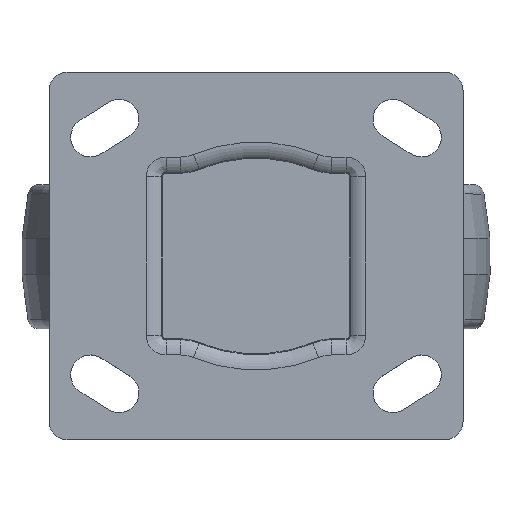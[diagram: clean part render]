
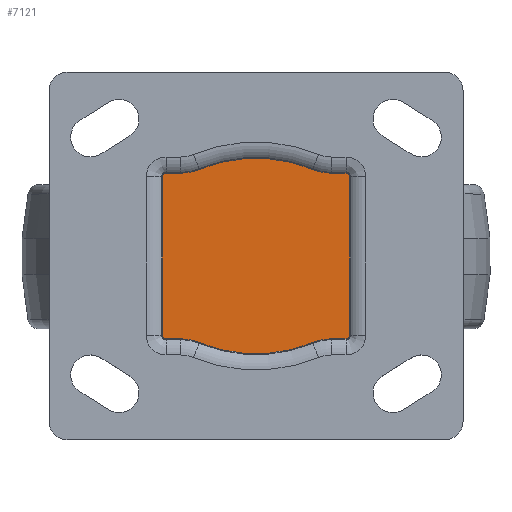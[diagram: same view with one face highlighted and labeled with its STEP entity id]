
A CAD part, top view. The second image highlights one B-rep face of the part: STEP entity #7121.
In plain terms, the highlighted planar face has unit normal (0, 0, 1).
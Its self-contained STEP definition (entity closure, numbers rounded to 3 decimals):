
#6472=CARTESIAN_POINT('',(25.,23.,0.5));
#6473=VERTEX_POINT('',#6472);
#6480=CARTESIAN_POINT('',(26.,22.,0.5));
#6481=VERTEX_POINT('',#6480);
#6482=CARTESIAN_POINT('',(25.,22.,0.5));
#6483=DIRECTION('',(0.0,0.0,1.0));
#6484=DIRECTION('',(1.0,0.0,0.0));
#6485=AXIS2_PLACEMENT_3D('',#6482,#6483,#6484);
#6486=CIRCLE('',#6485,1.0);
#6487=EDGE_CURVE('',#6481,#6473,#6486,.T.);
#6504=CARTESIAN_POINT('',(21.018,23.,0.5));
#6505=VERTEX_POINT('',#6504);
#6512=CARTESIAN_POINT('',(25.,23.,0.5));
#6513=DIRECTION('',(-1.0,0.,0.0));
#6514=VECTOR('',#6513,3.982);
#6515=LINE('',#6512,#6514);
#6516=EDGE_CURVE('',#6473,#6505,#6515,.T.);
#6528=CARTESIAN_POINT('',(15.668,24.063,0.5));
#6529=VERTEX_POINT('',#6528);
#6536=CARTESIAN_POINT('',(21.018,37.,0.5));
#6537=DIRECTION('',(0.0,0.0,-1.0));
#6538=DIRECTION('',(1.0,0.0,0.0));
#6539=AXIS2_PLACEMENT_3D('',#6536,#6537,#6538);
#6540=CIRCLE('',#6539,14.);
#6541=EDGE_CURVE('',#6505,#6529,#6540,.T.);
#6553=CARTESIAN_POINT('',(-15.668,24.063,0.5));
#6554=VERTEX_POINT('',#6553);
#6561=CARTESIAN_POINT('',(0.,-13.826,0.5));
#6562=DIRECTION('',(0.0,0.0,1.0));
#6563=DIRECTION('',(1.0,0.0,0.0));
#6564=AXIS2_PLACEMENT_3D('',#6561,#6562,#6563);
#6565=CIRCLE('',#6564,41.);
#6566=EDGE_CURVE('',#6529,#6554,#6565,.T.);
#6578=CARTESIAN_POINT('',(-21.018,23.,0.5));
#6579=VERTEX_POINT('',#6578);
#6586=CARTESIAN_POINT('',(-21.018,37.,0.5));
#6587=DIRECTION('',(0.0,0.0,-1.0));
#6588=DIRECTION('',(1.0,0.0,0.0));
#6589=AXIS2_PLACEMENT_3D('',#6586,#6587,#6588);
#6590=CIRCLE('',#6589,14.);
#6591=EDGE_CURVE('',#6554,#6579,#6590,.T.);
#6603=CARTESIAN_POINT('',(-25.,23.,0.5));
#6604=VERTEX_POINT('',#6603);
#6611=CARTESIAN_POINT('',(-21.018,23.,0.5));
#6612=DIRECTION('',(-1.0,0.,0.0));
#6613=VECTOR('',#6612,3.982);
#6614=LINE('',#6611,#6613);
#6615=EDGE_CURVE('',#6579,#6604,#6614,.T.);
#6627=CARTESIAN_POINT('',(-26.,22.,0.5));
#6628=VERTEX_POINT('',#6627);
#6635=CARTESIAN_POINT('',(-25.,22.,0.5));
#6636=DIRECTION('',(0.0,0.0,1.0));
#6637=DIRECTION('',(1.0,0.0,0.0));
#6638=AXIS2_PLACEMENT_3D('',#6635,#6636,#6637);
#6639=CIRCLE('',#6638,1.0);
#6640=EDGE_CURVE('',#6604,#6628,#6639,.T.);
#6652=CARTESIAN_POINT('',(-26.,-22.,0.5));
#6653=VERTEX_POINT('',#6652);
#6660=CARTESIAN_POINT('',(-26.,22.,0.5));
#6661=DIRECTION('',(0.0,-1.0,0.0));
#6662=VECTOR('',#6661,44.0);
#6663=LINE('',#6660,#6662);
#6664=EDGE_CURVE('',#6628,#6653,#6663,.T.);
#6914=CARTESIAN_POINT('',(-25.,-23.,0.5));
#6915=VERTEX_POINT('',#6914);
#6922=CARTESIAN_POINT('',(-25.,-22.,0.5));
#6923=DIRECTION('',(0.0,0.0,1.0));
#6924=DIRECTION('',(1.0,0.0,0.0));
#6925=AXIS2_PLACEMENT_3D('',#6922,#6923,#6924);
#6926=CIRCLE('',#6925,1.0);
#6927=EDGE_CURVE('',#6653,#6915,#6926,.T.);
#6939=CARTESIAN_POINT('',(-21.018,-23.,0.5));
#6940=VERTEX_POINT('',#6939);
#6947=CARTESIAN_POINT('',(-25.,-23.,0.5));
#6948=DIRECTION('',(1.0,0.,0.0));
#6949=VECTOR('',#6948,3.982);
#6950=LINE('',#6947,#6949);
#6951=EDGE_CURVE('',#6915,#6940,#6950,.T.);
#6963=CARTESIAN_POINT('',(-15.668,-24.063,0.5));
#6964=VERTEX_POINT('',#6963);
#6971=CARTESIAN_POINT('',(-21.018,-37.,0.5));
#6972=DIRECTION('',(0.0,0.0,-1.0));
#6973=DIRECTION('',(1.0,0.0,0.0));
#6974=AXIS2_PLACEMENT_3D('',#6971,#6972,#6973);
#6975=CIRCLE('',#6974,14.);
#6976=EDGE_CURVE('',#6940,#6964,#6975,.T.);
#6988=CARTESIAN_POINT('',(15.668,-24.063,0.5));
#6989=VERTEX_POINT('',#6988);
#6996=CARTESIAN_POINT('',(0.,13.826,0.5));
#6997=DIRECTION('',(0.0,0.0,1.0));
#6998=DIRECTION('',(1.0,0.0,0.0));
#6999=AXIS2_PLACEMENT_3D('',#6996,#6997,#6998);
#7000=CIRCLE('',#6999,41.);
#7001=EDGE_CURVE('',#6964,#6989,#7000,.T.);
#7013=CARTESIAN_POINT('',(21.018,-23.,0.5));
#7014=VERTEX_POINT('',#7013);
#7021=CARTESIAN_POINT('',(21.018,-37.,0.5));
#7022=DIRECTION('',(0.0,0.0,-1.0));
#7023=DIRECTION('',(1.0,0.0,0.0));
#7024=AXIS2_PLACEMENT_3D('',#7021,#7022,#7023);
#7025=CIRCLE('',#7024,14.);
#7026=EDGE_CURVE('',#6989,#7014,#7025,.T.);
#7038=CARTESIAN_POINT('',(25.,-23.,0.5));
#7039=VERTEX_POINT('',#7038);
#7046=CARTESIAN_POINT('',(21.018,-23.,0.5));
#7047=DIRECTION('',(1.0,0.,0.0));
#7048=VECTOR('',#7047,3.982);
#7049=LINE('',#7046,#7048);
#7050=EDGE_CURVE('',#7014,#7039,#7049,.T.);
#7062=CARTESIAN_POINT('',(26.,-22.,0.5));
#7063=VERTEX_POINT('',#7062);
#7070=CARTESIAN_POINT('',(25.,-22.,0.5));
#7071=DIRECTION('',(0.0,0.0,1.0));
#7072=DIRECTION('',(1.0,0.0,0.0));
#7073=AXIS2_PLACEMENT_3D('',#7070,#7071,#7072);
#7074=CIRCLE('',#7073,1.0);
#7075=EDGE_CURVE('',#7039,#7063,#7074,.T.);
#7088=CARTESIAN_POINT('',(26.,-22.,0.5));
#7089=DIRECTION('',(0.0,1.0,0.0));
#7090=VECTOR('',#7089,44.0);
#7091=LINE('',#7088,#7090);
#7092=EDGE_CURVE('',#7063,#6481,#7091,.T.);
#7098=CARTESIAN_POINT('',(0.,0.,0.5));
#7099=DIRECTION('',(0.0,0.0,1.0));
#7100=DIRECTION('',(1.0,0.0,0.0));
#7101=AXIS2_PLACEMENT_3D('',#7098,#7099,#7100);
#7102=PLANE('',#7101);
#7103=ORIENTED_EDGE('',*,*,#7075,.T.);
#7104=ORIENTED_EDGE('',*,*,#7092,.T.);
#7105=ORIENTED_EDGE('',*,*,#6487,.T.);
#7106=ORIENTED_EDGE('',*,*,#6516,.T.);
#7107=ORIENTED_EDGE('',*,*,#6541,.T.);
#7108=ORIENTED_EDGE('',*,*,#6566,.T.);
#7109=ORIENTED_EDGE('',*,*,#6591,.T.);
#7110=ORIENTED_EDGE('',*,*,#6615,.T.);
#7111=ORIENTED_EDGE('',*,*,#6640,.T.);
#7112=ORIENTED_EDGE('',*,*,#6664,.T.);
#7113=ORIENTED_EDGE('',*,*,#6927,.T.);
#7114=ORIENTED_EDGE('',*,*,#6951,.T.);
#7115=ORIENTED_EDGE('',*,*,#6976,.T.);
#7116=ORIENTED_EDGE('',*,*,#7001,.T.);
#7117=ORIENTED_EDGE('',*,*,#7026,.T.);
#7118=ORIENTED_EDGE('',*,*,#7050,.T.);
#7119=EDGE_LOOP('',(#7103,#7104,#7105,#7106,#7107,#7108,#7109,#7110,#7111,#7112,#7113,#7114,#7115,#7116,#7117,#7118));
#7120=FACE_OUTER_BOUND('',#7119,.T.);
#7121=ADVANCED_FACE('',(#7120),#7102,.T.);
